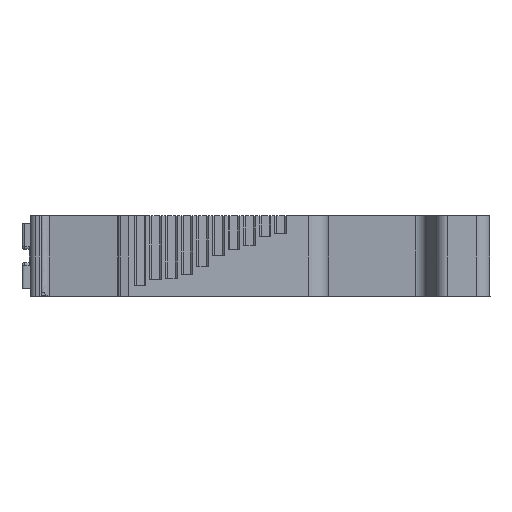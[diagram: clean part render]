
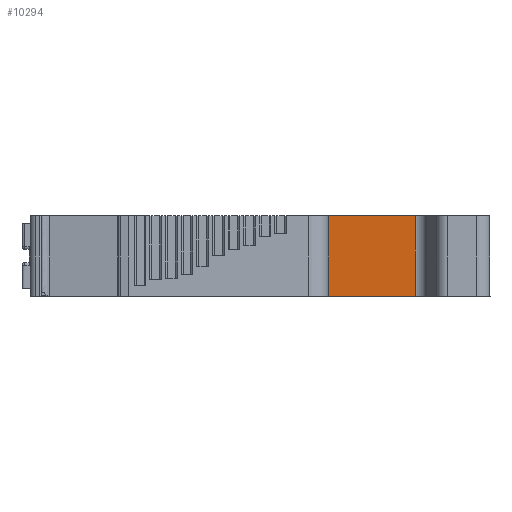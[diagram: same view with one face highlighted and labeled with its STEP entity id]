
A CAD part, left-side view. The second image highlights one B-rep face of the part: STEP entity #10294.
In plain terms, the highlighted planar face has unit normal (-0.996, 0.087, 0).
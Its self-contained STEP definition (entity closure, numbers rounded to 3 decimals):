
#3055 = DIRECTION ( 'NONE',  ( 0., 0., 1. ) ) ;
#3167 = CARTESIAN_POINT ( 'NONE',  ( -34.501, 22.573, 3.095 ) ) ;
#3264 = ORIENTED_EDGE ( 'NONE', *, *, #8801, .F. ) ;
#3976 = EDGE_CURVE ( 'NONE', #8817, #21871, #19679, .T. ) ;
#4240 = LINE ( 'NONE', #24933, #16096 ) ;
#4326 = ORIENTED_EDGE ( 'NONE', *, *, #8560, .T. ) ;
#4869 = DIRECTION ( 'NONE',  ( 0.087, 0.996, 0. ) ) ;
#5051 = CARTESIAN_POINT ( 'NONE',  ( -34.969, 17.226, 3.095 ) ) ;
#5440 = DIRECTION ( 'NONE',  ( -0.087, -0.996, 0. ) ) ;
#6305 = ORIENTED_EDGE ( 'NONE', *, *, #3976, .F. ) ;
#6499 = DIRECTION ( 'NONE',  ( -0.087, -0.996, 0. ) ) ;
#6973 = CARTESIAN_POINT ( 'NONE',  ( -35.083, 15.924, -0.005 ) ) ;
#7685 = CARTESIAN_POINT ( 'NONE',  ( -34.969, 17.226, -0.005 ) ) ;
#8560 = EDGE_CURVE ( 'NONE', #8817, #11424, #25599, .T. ) ;
#8801 = EDGE_CURVE ( 'NONE', #21871, #14694, #4240, .T. ) ;
#8817 = VERTEX_POINT ( 'NONE', #17996 ) ;
#8893 = ORIENTED_EDGE ( 'NONE', *, *, #26053, .F. ) ;
#9693 = FACE_OUTER_BOUND ( 'NONE', #15637, .T. ) ;
#10294 = ADVANCED_FACE ( 'NONE', ( #9693 ), #22194, .F. ) ;
#11424 = VERTEX_POINT ( 'NONE', #6973 ) ;
#11741 = DIRECTION ( 'NONE',  ( 0., 0., -1. ) ) ;
#12056 = ORIENTED_EDGE ( 'NONE', *, *, #16862, .F. ) ;
#12747 = VERTEX_POINT ( 'NONE', #14299 ) ;
#14299 = CARTESIAN_POINT ( 'NONE',  ( -35.083, 15.924, 0.995 ) ) ;
#14367 = DIRECTION ( 'NONE',  ( 0., 0., -1. ) ) ;
#14542 = VECTOR ( 'NONE', #14367, 1000. ) ;
#14694 = VERTEX_POINT ( 'NONE', #17986 ) ;
#15637 = EDGE_LOOP ( 'NONE', ( #6305, #4326, #8893, #12056, #3264 ) ) ;
#16096 = VECTOR ( 'NONE', #6499, 1000. ) ;
#16704 = AXIS2_PLACEMENT_3D ( 'NONE', #5051, #24196, #4869 ) ;
#16862 = EDGE_CURVE ( 'NONE', #14694, #12747, #19724, .T. ) ;
#17986 = CARTESIAN_POINT ( 'NONE',  ( -35.083, 15.924, 6.195 ) ) ;
#17996 = CARTESIAN_POINT ( 'NONE',  ( -34.501, 22.573, -0.005 ) ) ;
#18435 = LINE ( 'NONE', #23573, #22995 ) ;
#19679 = LINE ( 'NONE', #3167, #24287 ) ;
#19724 = LINE ( 'NONE', #26021, #14542 ) ;
#21871 = VERTEX_POINT ( 'NONE', #24176 ) ;
#22194 = PLANE ( 'NONE',  #16704 ) ;
#22995 = VECTOR ( 'NONE', #11741, 1000. ) ;
#23573 = CARTESIAN_POINT ( 'NONE',  ( -35.083, 15.924, 0.995 ) ) ;
#24176 = CARTESIAN_POINT ( 'NONE',  ( -34.501, 22.573, 6.195 ) ) ;
#24196 = DIRECTION ( 'NONE',  ( 0.996, -0.087, 0. ) ) ;
#24287 = VECTOR ( 'NONE', #3055, 1000. ) ;
#24933 = CARTESIAN_POINT ( 'NONE',  ( -34.501, 22.573, 6.195 ) ) ;
#25599 = LINE ( 'NONE', #7685, #26223 ) ;
#26021 = CARTESIAN_POINT ( 'NONE',  ( -35.083, 15.924, 3.095 ) ) ;
#26053 = EDGE_CURVE ( 'NONE', #12747, #11424, #18435, .T. ) ;
#26223 = VECTOR ( 'NONE', #5440, 1000. ) ;
